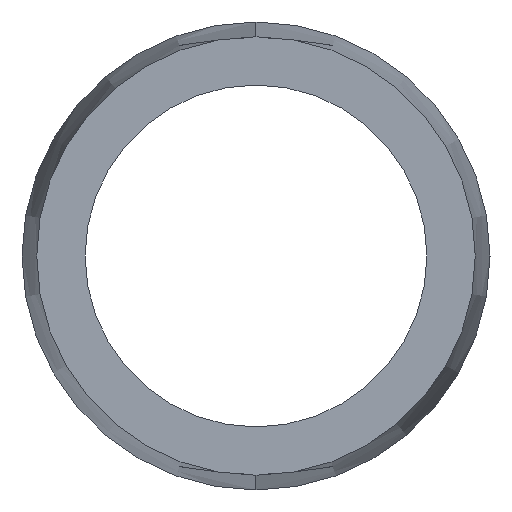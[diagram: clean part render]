
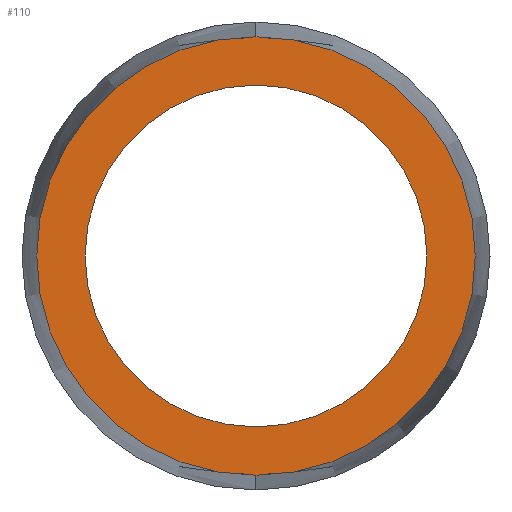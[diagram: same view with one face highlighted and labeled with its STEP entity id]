
A CAD part, left-side view. The second image highlights one B-rep face of the part: STEP entity #110.
In plain terms, the highlighted planar face has unit normal (-1, 0, 0).
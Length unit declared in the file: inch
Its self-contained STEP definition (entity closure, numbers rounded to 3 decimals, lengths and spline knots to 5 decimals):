
#1 = CARTESIAN_POINT ( 'NONE',  ( 0., 0., -0.2465 ) ) ;
#4 = AXIS2_PLACEMENT_3D ( 'NONE', #61, #83, #311 ) ;
#10 = EDGE_CURVE ( 'NONE', #171, #345, #74, .T. ) ;
#23 = CIRCLE ( 'NONE', #341, 0.31622 ) ;
#56 = DIRECTION ( 'NONE',  ( -1., 0., 0. ) ) ;
#61 = CARTESIAN_POINT ( 'NONE',  ( 0., 0., 0. ) ) ;
#66 = CARTESIAN_POINT ( 'NONE',  ( 0., 0., 0.31622 ) ) ;
#68 = CARTESIAN_POINT ( 'NONE',  ( 0., 0.2465, 0. ) ) ;
#72 = DIRECTION ( 'NONE',  ( 0., 0., 1. ) ) ;
#74 = CIRCLE ( 'NONE', #4, 0.2465 ) ;
#83 = DIRECTION ( 'NONE',  ( -1., 0., 0. ) ) ;
#110 = ADVANCED_FACE ( 'NONE', ( #270, #248 ), #347, .F. ) ;
#119 = CARTESIAN_POINT ( 'NONE',  ( 0., 0., -0.31622 ) ) ;
#123 = CIRCLE ( 'NONE', #125, 0.31622 ) ;
#125 = AXIS2_PLACEMENT_3D ( 'NONE', #316, #141, #72 ) ;
#127 = EDGE_CURVE ( 'NONE', #231, #186, #123, .T. ) ;
#134 = AXIS2_PLACEMENT_3D ( 'NONE', #195, #168, #276 ) ;
#140 = EDGE_CURVE ( 'NONE', #186, #231, #23, .T. ) ;
#141 = DIRECTION ( 'NONE',  ( -1., 0., 0. ) ) ;
#168 = DIRECTION ( 'NONE',  ( -1., 0., 0. ) ) ;
#171 = VERTEX_POINT ( 'NONE', #284 ) ;
#174 = DIRECTION ( 'NONE',  ( 0., 0., 1. ) ) ;
#178 = EDGE_LOOP ( 'NONE', ( #208, #309 ) ) ;
#186 = VERTEX_POINT ( 'NONE', #119 ) ;
#195 = CARTESIAN_POINT ( 'NONE',  ( 0., 0., 0. ) ) ;
#208 = ORIENTED_EDGE ( 'NONE', *, *, #140, .T. ) ;
#212 = ORIENTED_EDGE ( 'NONE', *, *, #329, .F. ) ;
#216 = CARTESIAN_POINT ( 'NONE',  ( 0., 0., 0. ) ) ;
#231 = VERTEX_POINT ( 'NONE', #66 ) ;
#248 = FACE_OUTER_BOUND ( 'NONE', #178, .T. ) ;
#270 = FACE_BOUND ( 'NONE', #300, .T. ) ;
#276 = DIRECTION ( 'NONE',  ( 0., 0., 1. ) ) ;
#284 = CARTESIAN_POINT ( 'NONE',  ( 0., 0., 0.2465 ) ) ;
#287 = DIRECTION ( 'NONE',  ( 1., 0., 0. ) ) ;
#300 = EDGE_LOOP ( 'NONE', ( #307, #212 ) ) ;
#307 = ORIENTED_EDGE ( 'NONE', *, *, #10, .F. ) ;
#309 = ORIENTED_EDGE ( 'NONE', *, *, #127, .T. ) ;
#311 = DIRECTION ( 'NONE',  ( 0., 0., 1. ) ) ;
#316 = CARTESIAN_POINT ( 'NONE',  ( 0., 0., 0. ) ) ;
#320 = DIRECTION ( 'NONE',  ( 0., 0., -1. ) ) ;
#323 = AXIS2_PLACEMENT_3D ( 'NONE', #68, #287, #320 ) ;
#329 = EDGE_CURVE ( 'NONE', #345, #171, #351, .T. ) ;
#341 = AXIS2_PLACEMENT_3D ( 'NONE', #216, #56, #174 ) ;
#345 = VERTEX_POINT ( 'NONE', #1 ) ;
#347 = PLANE ( 'NONE',  #323 ) ;
#351 = CIRCLE ( 'NONE', #134, 0.2465 ) ;
